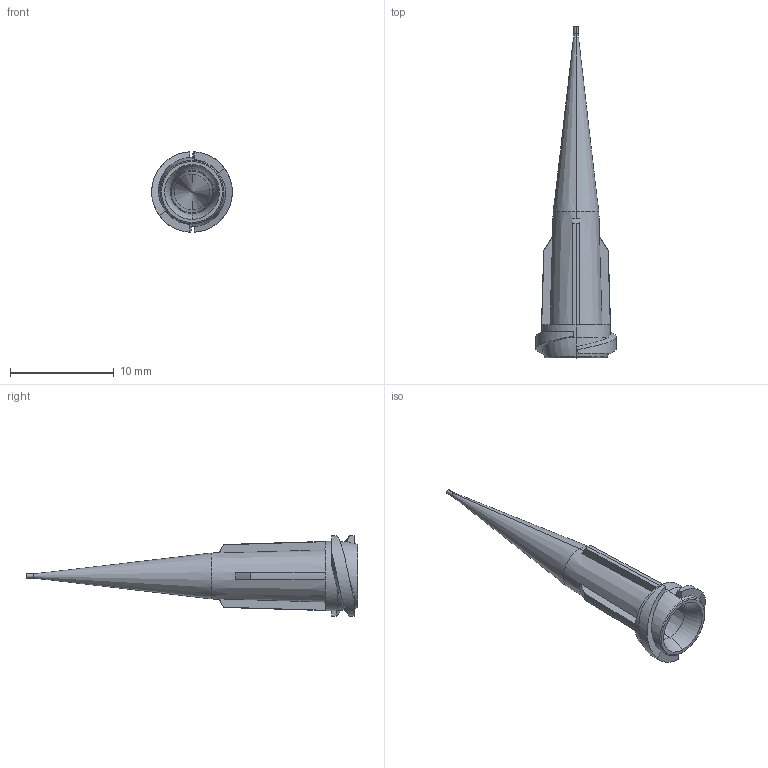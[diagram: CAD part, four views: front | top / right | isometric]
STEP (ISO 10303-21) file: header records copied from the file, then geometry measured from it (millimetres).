
FILE_DESCRIPTION (( 'STEP AP214' ), '1' );
FILE_NAME ('NORDSONEFD-7018416 TIP 27GA RTT 008 CL.STEP', '2019-02-21T00:35:19', ( '' ), ( '' ), 'SwSTEP 2.0', 'SolidWorks 2019', '' );
FILE_SCHEMA (( 'AUTOMOTIVE_DESIGN' ));
Length unit declared in the file: inch
Products named in the file (1): NORDSONEFD-7018416 TIP 27GA RTT 008 CL
Bounding box: 7.76 x 32 x 7.77 mm (x, y, z)
Volume: 203.1 mm3; surface area: 742.6 mm2
Topology: 1 solids, 1 shells, 62 faces, 152 edges, 92 vertices
Faces by surface type: plane 22, cone 14, bspline 12, torus 8, cylinder 6
Entity records: 2212 total; most frequent: CARTESIAN_POINT 817, ORIENTED_EDGE 304, DIRECTION 266, EDGE_CURVE 152, AXIS2_PLACEMENT_3D 111, VERTEX_POINT 92, EDGE_LOOP 64, ADVANCED_FACE 62
